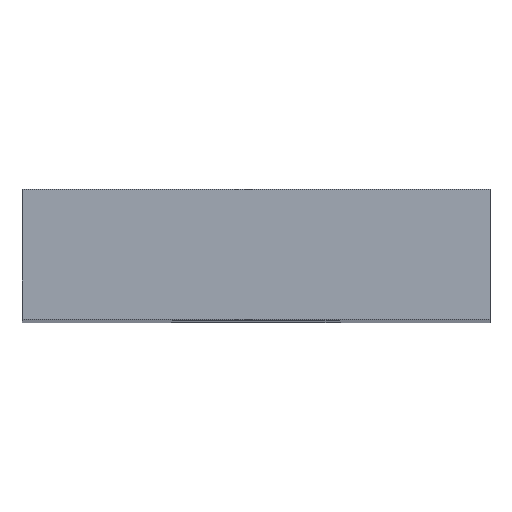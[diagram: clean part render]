
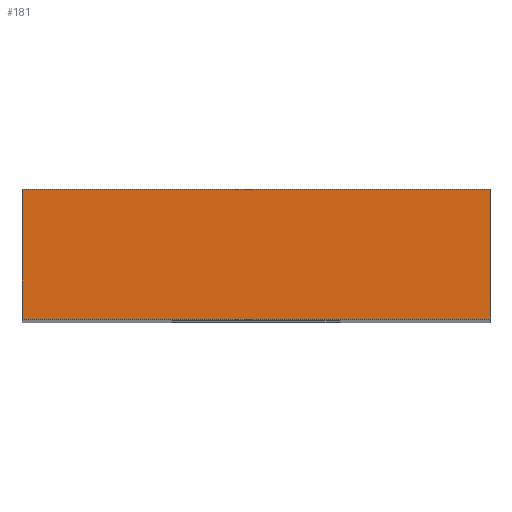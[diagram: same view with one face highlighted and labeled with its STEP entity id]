
A CAD part, top view. The second image highlights one B-rep face of the part: STEP entity #181.
In plain terms, the highlighted face is a extrusion surface.
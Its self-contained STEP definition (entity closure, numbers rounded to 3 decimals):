
#142=CARTESIAN_POINT('Control Point',(-18.,0.,0.)) ;
#143=CARTESIAN_POINT('Control Point',(0.,0.,0.)) ;
#147=CARTESIAN_POINT('Line Origine',(-9.,0.,0.)) ;
#151=CARTESIAN_POINT('Vertex',(-18.,0.,0.)) ;
#153=CARTESIAN_POINT('Vertex',(0.,0.,0.)) ;
#156=CARTESIAN_POINT('Line Origine',(0.,2.5,0.)) ;
#160=CARTESIAN_POINT('Vertex',(0.,5.,0.)) ;
#163=CARTESIAN_POINT('Line Origine',(-9.,5.,0.)) ;
#167=CARTESIAN_POINT('Vertex',(-18.,5.,0.)) ;
#170=CARTESIAN_POINT('Line Origine',(-18.,2.5,0.)) ;
#144=DIRECTION('Vector Direction',(0.,1.,0.)) ;
#148=DIRECTION('Vector Direction',(1.,0.,0.)) ;
#157=DIRECTION('Vector Direction',(0.,1.,0.)) ;
#164=DIRECTION('Vector Direction',(1.,0.,0.)) ;
#171=DIRECTION('Vector Direction',(0.,1.,0.)) ;
#176=ORIENTED_EDGE('',*,*,#155,.T.) ;
#177=ORIENTED_EDGE('',*,*,#162,.T.) ;
#178=ORIENTED_EDGE('',*,*,#169,.T.) ;
#179=ORIENTED_EDGE('',*,*,#174,.T.) ;
#145=VECTOR('Extrusion Surface Vector',#144,1.) ;
#149=VECTOR('Line Direction',#148,1.) ;
#158=VECTOR('Line Direction',#157,1.) ;
#165=VECTOR('Line Direction',#164,1.) ;
#172=VECTOR('Line Direction',#171,1.) ;
#181=ADVANCED_FACE('Superficie.3',(#180),#146,.T.) ;
#141=B_SPLINE_CURVE_WITH_KNOTS('',1,(#142,#143),.UNSPECIFIED.,.F.,.U.,(2,2),(-9.,9.),.UNSPECIFIED.) ;
#155=EDGE_CURVE('',#152,#154,#150,.T.) ;
#162=EDGE_CURVE('',#154,#161,#159,.T.) ;
#169=EDGE_CURVE('',#161,#168,#166,.F.) ;
#174=EDGE_CURVE('',#168,#152,#173,.F.) ;
#175=EDGE_LOOP('',(#176,#177,#178,#179)) ;
#180=FACE_OUTER_BOUND('',#175,.T.) ;
#150=LINE('Line',#147,#149) ;
#159=LINE('Line',#156,#158) ;
#166=LINE('Line',#163,#165) ;
#173=LINE('Line',#170,#172) ;
#146=SURFACE_OF_LINEAR_EXTRUSION('generated tabulated cylinder',#141,#145) ;
#152=VERTEX_POINT('',#151) ;
#154=VERTEX_POINT('',#153) ;
#161=VERTEX_POINT('',#160) ;
#168=VERTEX_POINT('',#167) ;
